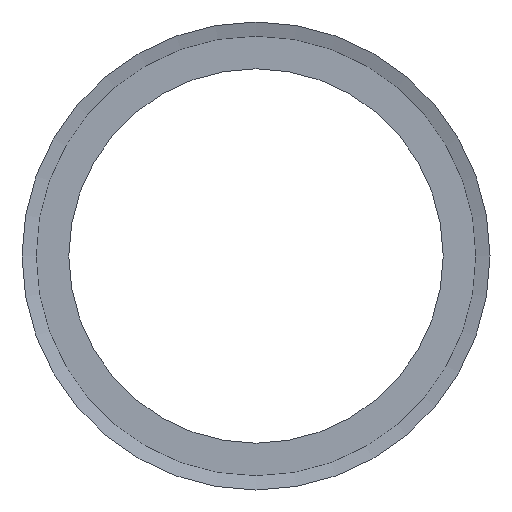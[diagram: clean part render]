
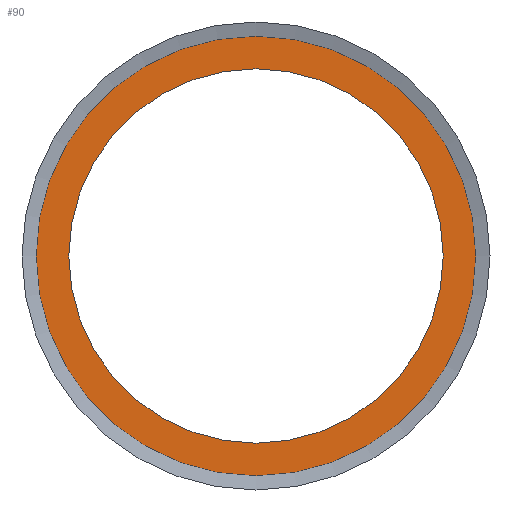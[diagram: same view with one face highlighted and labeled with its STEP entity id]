
A CAD part, left-side view. The second image highlights one B-rep face of the part: STEP entity #90.
In plain terms, the highlighted planar face has unit normal (-1, 0, 0).
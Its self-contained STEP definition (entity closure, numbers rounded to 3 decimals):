
#15=FACE_BOUND('',#31,.T.);
#17=PLANE('',#123);
#24=FACE_OUTER_BOUND('',#30,.T.);
#30=EDGE_LOOP('',(#77));
#31=EDGE_LOOP('',(#78));
#46=CIRCLE('',#122,35.25);
#47=CIRCLE('',#124,30.);
#52=VERTEX_POINT('',#170);
#53=VERTEX_POINT('',#174);
#61=EDGE_CURVE('',#52,#52,#46,.T.);
#62=EDGE_CURVE('',#53,#53,#47,.T.);
#77=ORIENTED_EDGE('',*,*,#61,.T.);
#78=ORIENTED_EDGE('',*,*,#62,.F.);
#90=ADVANCED_FACE('',(#24,#15),#17,.T.);
#122=AXIS2_PLACEMENT_3D('',#172,#145,#146);
#123=AXIS2_PLACEMENT_3D('',#173,#147,#148);
#124=AXIS2_PLACEMENT_3D('',#175,#149,#150);
#145=DIRECTION('center_axis',(-1.,0.,0.));
#146=DIRECTION('ref_axis',(0.,0.,1.));
#147=DIRECTION('center_axis',(-1.,0.,0.));
#148=DIRECTION('ref_axis',(0.,0.,1.));
#149=DIRECTION('center_axis',(-1.,0.,0.));
#150=DIRECTION('ref_axis',(0.,0.,1.));
#170=CARTESIAN_POINT('',(-1.5,-35.25,0.));
#172=CARTESIAN_POINT('Origin',(-1.5,0.,0.));
#173=CARTESIAN_POINT('Origin',(-1.5,30.,0.));
#174=CARTESIAN_POINT('',(-1.5,-30.,0.));
#175=CARTESIAN_POINT('Origin',(-1.5,0.,0.));
